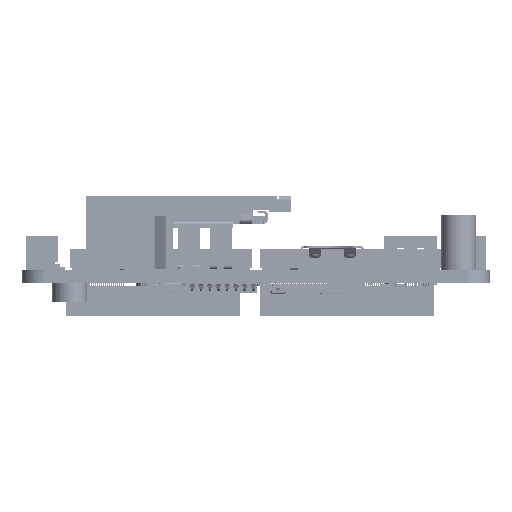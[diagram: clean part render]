
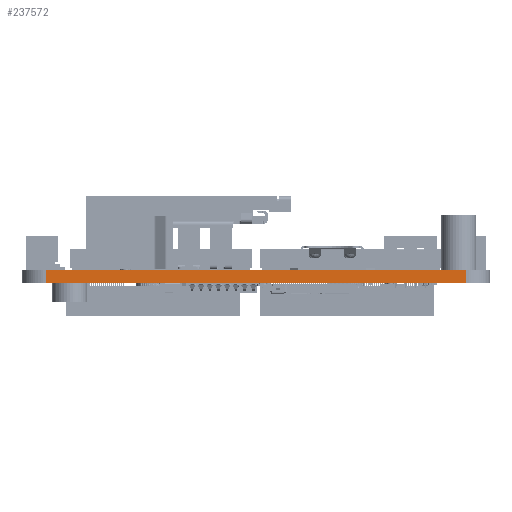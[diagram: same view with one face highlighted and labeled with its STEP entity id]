
A CAD part, left-side view. The second image highlights one B-rep face of the part: STEP entity #237572.
In plain terms, the highlighted planar face has unit normal (-1, 0, 0).
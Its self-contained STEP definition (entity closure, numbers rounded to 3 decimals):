
#22618=FACE_OUTER_BOUND('',#35200,.T.);
#35200=EDGE_LOOP('',(#211550,#211551,#211552,#211553));
#62014=LINE('',#404048,#88930);
#62045=LINE('',#404220,#88961);
#62115=LINE('',#404469,#89031);
#62117=LINE('',#404473,#89033);
#88930=VECTOR('',#318833,1.);
#88961=VECTOR('',#318976,1.);
#89031=VECTOR('',#319214,1.);
#89033=VECTOR('',#319220,1.);
#111115=VERTEX_POINT('',#404045);
#111116=VERTEX_POINT('',#404047);
#111200=VERTEX_POINT('',#404217);
#111201=VERTEX_POINT('',#404219);
#144530=EDGE_CURVE('',#111115,#111116,#62014,.T.);
#144616=EDGE_CURVE('',#111201,#111200,#62045,.T.);
#144741=EDGE_CURVE('',#111116,#111200,#62115,.T.);
#144743=EDGE_CURVE('',#111115,#111201,#62117,.T.);
#211550=ORIENTED_EDGE('',*,*,#144743,.T.);
#211551=ORIENTED_EDGE('',*,*,#144616,.T.);
#211552=ORIENTED_EDGE('',*,*,#144741,.F.);
#211553=ORIENTED_EDGE('',*,*,#144530,.F.);
#220418=PLANE('',#255990);
#237572=ADVANCED_FACE('',(#22618),#220418,.T.);
#255990=AXIS2_PLACEMENT_3D('',#404472,#319218,#319219);
#318833=DIRECTION('',(0.,1.,0.));
#318976=DIRECTION('',(0.,1.,0.));
#319214=DIRECTION('',(0.,0.,1.));
#319218=DIRECTION('center_axis',(-1.,0.,0.));
#319219=DIRECTION('ref_axis',(0.,1.,0.));
#319220=DIRECTION('',(0.,0.,1.));
#404045=CARTESIAN_POINT('',(-3.,-53.,0.));
#404047=CARTESIAN_POINT('',(-3.,0.,0.));
#404048=CARTESIAN_POINT('',(-3.,-53.,0.));
#404217=CARTESIAN_POINT('',(-3.,0.,1.6));
#404219=CARTESIAN_POINT('',(-3.,-53.,1.6));
#404220=CARTESIAN_POINT('',(-3.,-53.,1.6));
#404469=CARTESIAN_POINT('',(-3.,0.,0.));
#404472=CARTESIAN_POINT('Origin',(-3.,-53.,0.));
#404473=CARTESIAN_POINT('',(-3.,-53.,0.));
